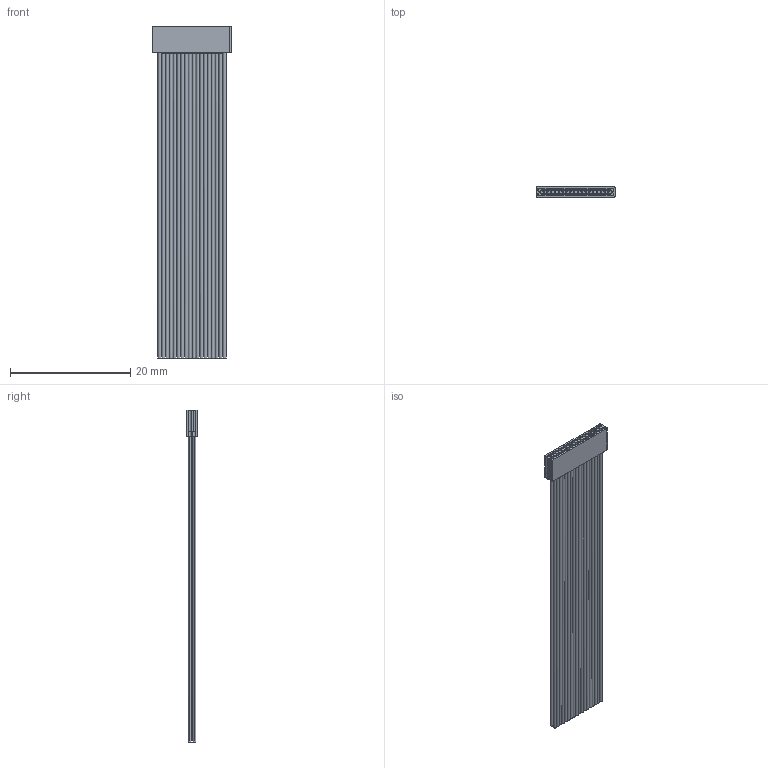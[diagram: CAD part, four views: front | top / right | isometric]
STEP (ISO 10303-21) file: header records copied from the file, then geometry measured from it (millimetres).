
FILE_DESCRIPTION (( 'STEP AP214' ), '1' );
FILE_NAME ('A79028-001 REV B.STEP', '2015-11-06T12:23:54', ( '' ), ( '' ), 'SwSTEP 2.0', 'SolidWorks 2015', '' );
FILE_SCHEMA (( 'AUTOMOTIVE_DESIGN' ));
Length unit declared in the file: inch
Products named in the file (1): A79028-001
Bounding box: 13.08 x 1.79 x 55.19 mm (x, y, z)
Volume: 476.9 mm3; surface area: 3550.9 mm2
Topology: 1 solids, 1 shells, 665 faces, 1579 edges, 1045 vertices
Faces by surface type: cylinder 314, plane 275, bspline 76
Entity records: 22737 total; most frequent: CARTESIAN_POINT 7680, ORIENTED_EDGE 3150, DIRECTION 2955, EDGE_CURVE 1575, AXIS2_PLACEMENT_3D 1140, VERTEX_POINT 1045, EDGE_LOOP 798, VECTOR 675
